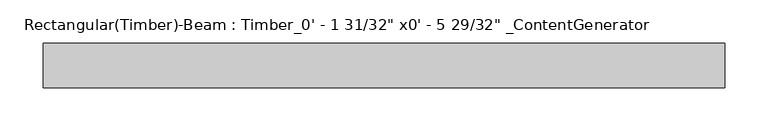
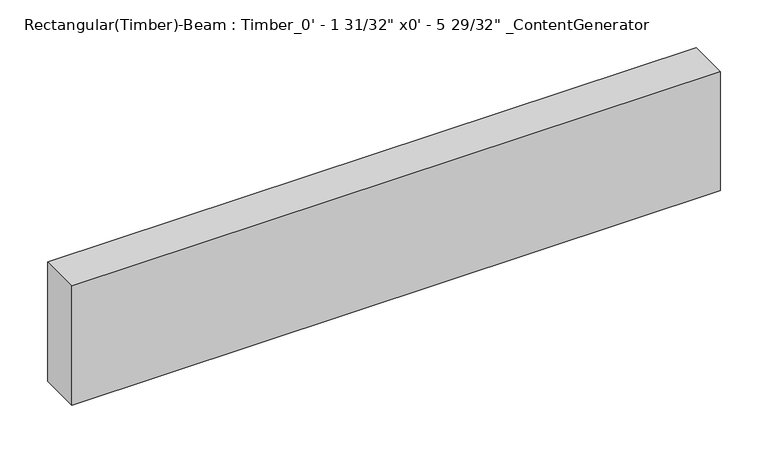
"""IFC4 building model written with IfcOpenShell, lengths in millimetres: beam geometry."""

from ifc_helpers import new_model, si_unit, frame, origin, place, context, project, spatial, polyline, outline, extrude, source, transform, mapped, element, save


def beam_0820d10d(model_context):
    return source(origin(), model_context, "Body", "SweptSolid", [
        extrude(outline(polyline([(393.7099994, 25.4), (393.7099994, -25.4), (-390.8646217, -25.4), (-390.8646217, 25.4), (393.7099994, 25.4)])), frame((0.0, 0.0, -76.2), z_axis=(0.0, 0.0, 1.0), x_axis=(1.0, 0.0, 0.0)), (0.0, 0.0, 1.0), 152.4),
    ])


if __name__ == "__main__":
    model = new_model("IFC4")
    model_context = context("Model", 3, world=origin())
    ifc_project = project(units=[si_unit("LENGTHUNIT", "METRE", prefix="MILLI")], contexts=[model_context])
    site = spatial("IfcSite", under=ifc_project)
    building = spatial("IfcBuilding", under=site)
    placement = place(None, origin())
    beam_shape = beam_0820d10d(model_context)
    element("IfcBeam", 1, ObjectType="Rectangular(Timber)-Beam : Timber_0' - 1 31/32\" x0' - 5 29/32\" _ContentGenerator", at=placement, inside=building, context=model_context, shape_type="MappedRepresentation", body=[
        mapped(beam_shape, transform((0.0, 0.0, 0.0), x_axis=(1.0, 0.0, 0.0), y_axis=(0.0, 1.0, 0.0), z_axis=(0.0, 0.0, 1.0))),
    ])
    save(model, "model.ifc")
